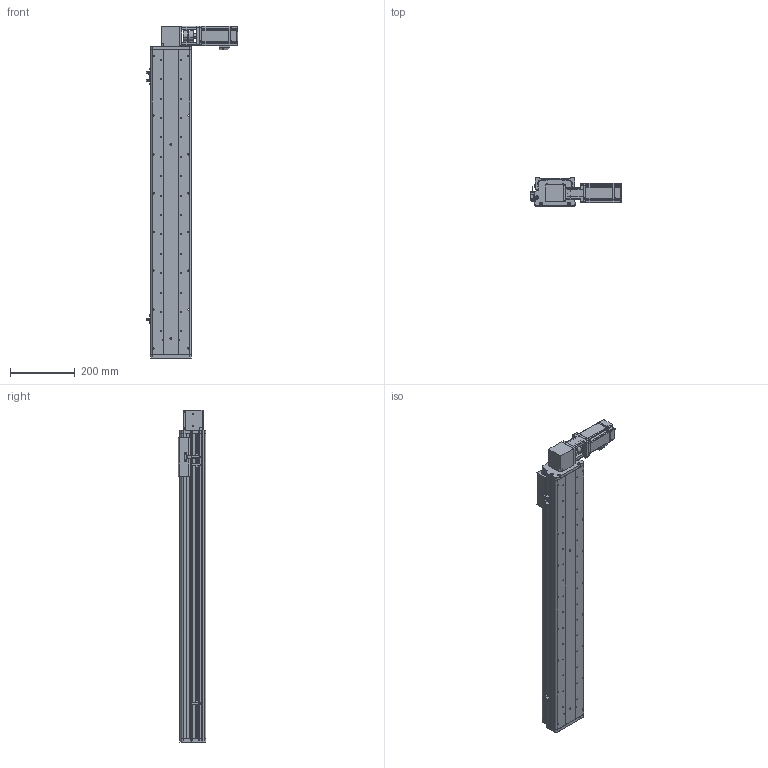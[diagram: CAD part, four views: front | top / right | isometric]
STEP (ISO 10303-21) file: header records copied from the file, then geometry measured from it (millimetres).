
FILE_DESCRIPTION (( 'STEP AP214' ), '1' );
FILE_NAME ('KSD125B-S750-MRT-CM.STEP', '2017-10-21T06:57:57', ( '微软用户' ), ( '微软中国' ), 'SwSTEP 2.0', 'SolidWorks 2014', '' );
FILE_SCHEMA (( 'AUTOMOTIVE_DESIGN' ));
Length unit declared in the file: millimetre
Products named in the file (16): MHMD042G1CA_2_03; KSD125模组同步带-防撞垫2; CS-34X32-10X14; 100遵鎮湛假蚾啣1 ; 覜茼え68遵圉猾敕; U倰嫖萇假蚾璃; U倰嫖萇EEㄜSX672; KSD125模组同步带-防撞垫1; 100宽安装板同步带带电机座400W,86; 前端板-125宽模组同步带; 125模组同步带-尾端板1; KSD125模组同步带-滑动座1; KSD125B-S750-MRT-CM; 100宽马达安装板同步带左; KSD125模组750行程同步带-防尘盖; 125模组750行程同步带-底板
Assembly tree (19 placements, depth 2):
  KSD125B-S750-MRT-CM
    KSD125模组同步带-滑动座1
    125模组同步带-尾端板1
    前端板-125宽模组同步带
    100宽安装板同步带带电机座400W,86
    KSD125模组同步带-防撞垫1
    U倰嫖萇EEㄜSX672  x3
    U倰嫖萇假蚾璃  x3
    覜茼え68遵圉猾敕
    100遵鎮湛假蚾啣1 
    CS-34X32-10X14
    KSD125模组同步带-防撞垫2
    MHMD042G1CA_2_03
    125模组750行程同步带-底板
    KSD125模组750行程同步带-防尘盖
    100宽马达安装板同步带左
Bounding box: 282.7 x 86 x 1027 mm (x, y, z)
Volume: 3242854.3 mm3; surface area: 1077099.9 mm2
Topology: 18 solids, 21 shells, 1678 faces, 4810 edges, 3172 vertices
Faces by surface type: cylinder 873, plane 702, cone 81, bspline 22
Entity records: 58926 total; most frequent: CARTESIAN_POINT 11924, DIRECTION 8621, ORIENTED_EDGE 8140, EDGE_CURVE 4148, AXIS2_PLACEMENT_3D 3201, VERTEX_POINT 2764, VECTOR 2219, LINE 2219
